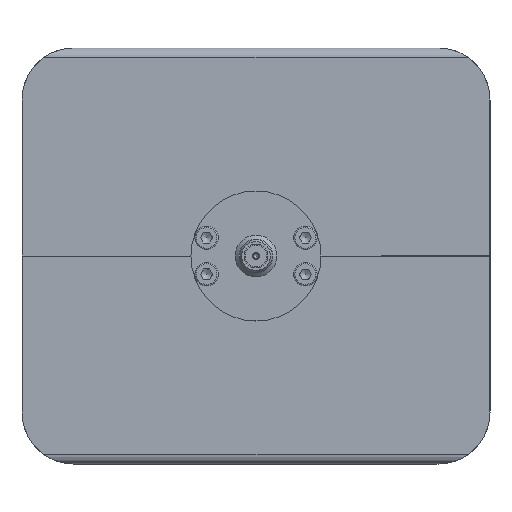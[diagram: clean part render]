
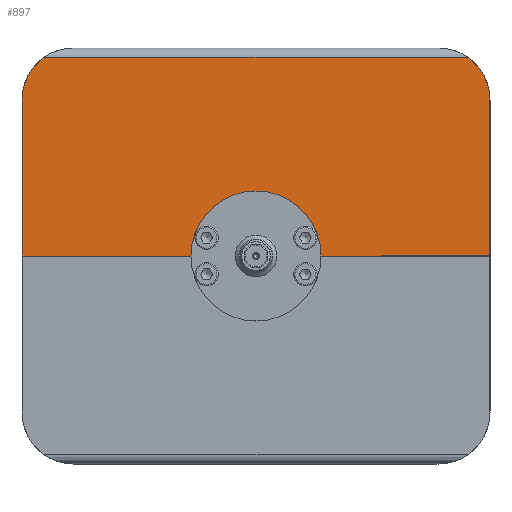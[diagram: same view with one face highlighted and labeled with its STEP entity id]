
A CAD part, left-side view. The second image highlights one B-rep face of the part: STEP entity #897.
In plain terms, the highlighted planar face has unit normal (-1, 0, 0).
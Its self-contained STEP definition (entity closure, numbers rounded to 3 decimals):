
#897=ADVANCED_FACE('',(#4016,#4018,#4020),#4022,.T.);
#4016=FACE_BOUND('',#4017,.T.);
#4017=EDGE_LOOP('',(#6731,#6732,#6733,#6734,#6735,#6736,#6737,#6738,#6739,#6740,
#6741,#6742,#6743,#6744));
#4018=FACE_BOUND('',#4019,.T.);
#4019=EDGE_LOOP('',(#6745));
#4020=FACE_BOUND('',#4021,.T.);
#4021=EDGE_LOOP('',(#6746));
#4022=PLANE('',#4023);
#4023=AXIS2_PLACEMENT_3D('',#4024,#4025,#4026);
#4024=CARTESIAN_POINT('',(-42.,0.,-45.));
#4025=DIRECTION('',(-1.,0.,0.));
#4026=DIRECTION('',(0.,-1.,0.));
#6731=ORIENTED_EDGE('',*,*,#8495,.T.);
#6732=ORIENTED_EDGE('',*,*,#8496,.T.);
#6733=ORIENTED_EDGE('',*,*,#8497,.T.);
#6734=ORIENTED_EDGE('',*,*,#8498,.T.);
#6735=ORIENTED_EDGE('',*,*,#8499,.T.);
#6736=ORIENTED_EDGE('',*,*,#8485,.F.);
#6737=ORIENTED_EDGE('',*,*,#8500,.T.);
#6738=ORIENTED_EDGE('',*,*,#8501,.T.);
#6739=ORIENTED_EDGE('',*,*,#8502,.T.);
#6740=ORIENTED_EDGE('',*,*,#8503,.T.);
#6741=ORIENTED_EDGE('',*,*,#8421,.F.);
#6742=ORIENTED_EDGE('',*,*,#8483,.F.);
#6743=ORIENTED_EDGE('',*,*,#8504,.T.);
#6744=ORIENTED_EDGE('',*,*,#8505,.T.);
#6745=ORIENTED_EDGE('',*,*,#8506,.T.);
#6746=ORIENTED_EDGE('',*,*,#8507,.T.);
#8421=EDGE_CURVE('',#9306,#9308,#9309,.T.);
#8483=EDGE_CURVE('',#9429,#9306,#9431,.T.);
#8485=EDGE_CURVE('',#9432,#9434,#9435,.T.);
#8495=EDGE_CURVE('',#9453,#9454,#9455,.F.);
#8496=EDGE_CURVE('',#9454,#9456,#9457,.F.);
#8497=EDGE_CURVE('',#9456,#9458,#9459,.F.);
#8498=EDGE_CURVE('',#9458,#9460,#9461,.F.);
#8499=EDGE_CURVE('',#9460,#9434,#9462,.F.);
#8500=EDGE_CURVE('',#9432,#9463,#9464,.T.);
#8501=EDGE_CURVE('',#9463,#9465,#9466,.T.);
#8502=EDGE_CURVE('',#9465,#9467,#9468,.T.);
#8503=EDGE_CURVE('',#9467,#9308,#9469,.T.);
#8504=EDGE_CURVE('',#9429,#9470,#9471,.F.);
#8505=EDGE_CURVE('',#9470,#9453,#9472,.F.);
#8506=EDGE_CURVE('',#9473,#9473,#9474,.F.);
#8507=EDGE_CURVE('',#9475,#9475,#9476,.F.);
#9306=VERTEX_POINT('',#10834);
#9308=VERTEX_POINT('',#10838);
#9309=LINE('',#10839,#10840);
#9429=VERTEX_POINT('',#11104);
#9431=LINE('',#11108,#11109);
#9432=VERTEX_POINT('',#11111);
#9434=VERTEX_POINT('',#11115);
#9435=LINE('',#11116,#11117);
#9453=VERTEX_POINT('',#11162);
#9454=VERTEX_POINT('',#11163);
#9455=LINE('',#11164,#11165);
#9456=VERTEX_POINT('',#11167);
#9457=LINE('',#11168,#11169);
#9458=VERTEX_POINT('',#11171);
#9459=LINE('',#11172,#11173);
#9460=VERTEX_POINT('',#11175);
#9461=LINE('',#11176,#11177);
#9462=LINE('',#11179,#11180);
#9463=VERTEX_POINT('',#11182);
#9464=LINE('',#11183,#11184);
#9465=VERTEX_POINT('',#11186);
#9466=CIRCLE('',#11187,10.);
#9467=VERTEX_POINT('',#11191);
#9468=LINE('',#11192,#11193);
#9469=CIRCLE('',#11195,10.);
#9470=VERTEX_POINT('',#11199);
#9471=LINE('',#11200,#11201);
#9472=LINE('',#11203,#11204);
#9473=VERTEX_POINT('',#11206);
#9474=CIRCLE('',#11207,1.006);
#9475=VERTEX_POINT('',#11211);
#9476=CIRCLE('',#11212,1.006);
#10834=CARTESIAN_POINT('',(-42.,0.,45.));
#10838=CARTESIAN_POINT('',(-42.,-30.,45.));
#10839=CARTESIAN_POINT('',(-42.,0.,45.));
#10840=VECTOR('',#10841,1.);
#10841=DIRECTION('',(0.,-1.,0.));
#11104=CARTESIAN_POINT('',(-42.,0.,3.25));
#11108=CARTESIAN_POINT('',(-42.,0.,3.25));
#11109=VECTOR('',#11110,1.);
#11110=DIRECTION('',(0.,0.,1.));
#11111=CARTESIAN_POINT('',(-42.,0.,-45.));
#11115=CARTESIAN_POINT('',(-42.,0.,-3.25));
#11116=CARTESIAN_POINT('',(-42.,0.,-45.));
#11117=VECTOR('',#11118,1.);
#11118=DIRECTION('',(0.,0.,1.));
#11162=CARTESIAN_POINT('',(-42.,-0.75,1.85));
#11163=CARTESIAN_POINT('',(-42.,-1.15,1.85));
#11164=CARTESIAN_POINT('',(-42.,-1.15,1.85));
#11165=VECTOR('',#11166,1.);
#11166=DIRECTION('',(0.,1.,0.));
#11167=CARTESIAN_POINT('',(-42.,-1.15,-1.85));
#11168=CARTESIAN_POINT('',(-42.,-1.15,-1.85));
#11169=VECTOR('',#11170,1.);
#11170=DIRECTION('',(0.,0.,1.));
#11171=CARTESIAN_POINT('',(-42.,-0.75,-1.85));
#11172=CARTESIAN_POINT('',(-42.,-0.75,-1.85));
#11173=VECTOR('',#11174,1.);
#11174=DIRECTION('',(0.,-1.,0.));
#11175=CARTESIAN_POINT('',(-42.,-0.75,-3.25));
#11176=CARTESIAN_POINT('',(-42.,-0.75,-3.25));
#11177=VECTOR('',#11178,1.);
#11178=DIRECTION('',(0.,0.,1.));
#11179=CARTESIAN_POINT('',(-42.,0.,-3.25));
#11180=VECTOR('',#11181,1.);
#11181=DIRECTION('',(0.,-1.,0.));
#11182=CARTESIAN_POINT('',(-42.,-30.,-45.));
#11183=CARTESIAN_POINT('',(-42.,0.,-45.));
#11184=VECTOR('',#11185,1.);
#11185=DIRECTION('',(0.,-1.,0.));
#11186=CARTESIAN_POINT('',(-42.,-38.25,-40.651));
#11187=AXIS2_PLACEMENT_3D('',#11188,#11189,#11190);
#11188=CARTESIAN_POINT('',(-42.,-30.,-35.));
#11189=DIRECTION('',(-1.,0.,0.));
#11190=DIRECTION('',(0.,0.,-1.));
#11191=CARTESIAN_POINT('',(-42.,-38.25,40.651));
#11192=CARTESIAN_POINT('',(-42.,-38.25,-40.651));
#11193=VECTOR('',#11194,1.);
#11194=DIRECTION('',(0.,0.,1.));
#11195=AXIS2_PLACEMENT_3D('',#11196,#11197,#11198);
#11196=CARTESIAN_POINT('',(-42.,-30.,35.));
#11197=DIRECTION('',(-1.,0.,0.));
#11198=DIRECTION('',(0.,-0.825,0.565));
#11199=CARTESIAN_POINT('',(-42.,-0.75,3.25));
#11200=CARTESIAN_POINT('',(-42.,-0.75,3.25));
#11201=VECTOR('',#11202,1.);
#11202=DIRECTION('',(0.,1.,0.));
#11203=CARTESIAN_POINT('',(-42.,-0.75,1.85));
#11204=VECTOR('',#11205,1.);
#11205=DIRECTION('',(0.,0.,1.));
#11206=CARTESIAN_POINT('',(-42.,-2.494,-9.5));
#11207=AXIS2_PLACEMENT_3D('',#11208,#11209,#11210);
#11208=CARTESIAN_POINT('',(-42.,-3.5,-9.5));
#11209=DIRECTION('',(-1.,0.,0.));
#11210=DIRECTION('',(0.,1.,0.));
#11211=CARTESIAN_POINT('',(-42.,-2.494,9.5));
#11212=AXIS2_PLACEMENT_3D('',#11213,#11214,#11215);
#11213=CARTESIAN_POINT('',(-42.,-3.5,9.5));
#11214=DIRECTION('',(-1.,0.,0.));
#11215=DIRECTION('',(0.,1.,0.));
